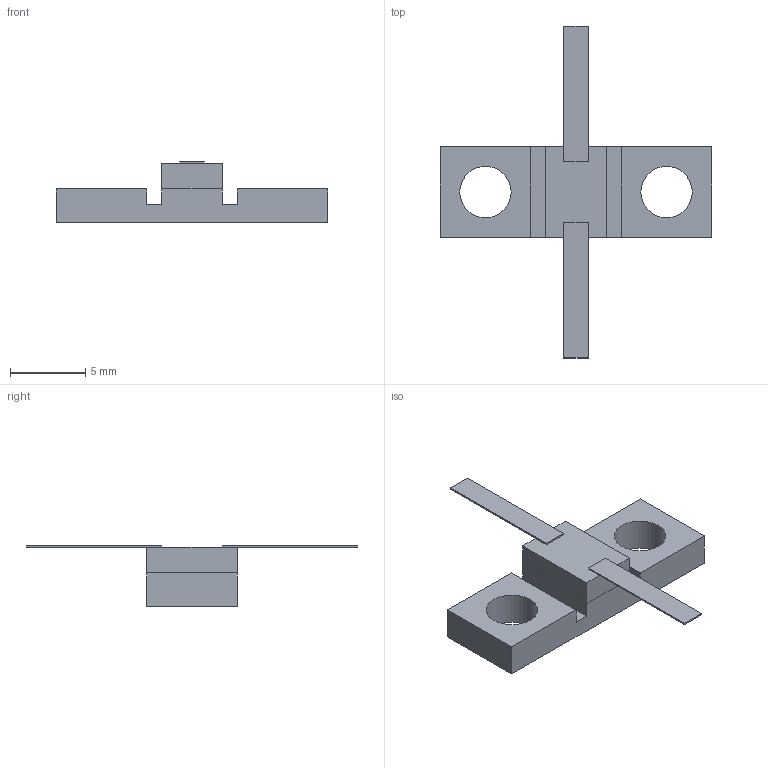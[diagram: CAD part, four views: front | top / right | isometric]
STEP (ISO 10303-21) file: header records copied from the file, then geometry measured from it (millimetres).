
FILE_DESCRIPTION(('STEP AP203'), '1');
FILE_NAME('Ð1-9', '', ('UNSPECIFIED'), ('UNSPECIFIED'), 'ASCON STEP Converter 1.6', 'ASCON Math Kernel', '');
FILE_SCHEMA(('CONFIG_CONTROL_DESIGN'));
Length unit declared in the file: millimetre
Bounding box: 18 x 22 x 4 mm (x, y, z)
Volume: 229.3 mm3; surface area: 489.7 mm2
Topology: 2 solids, 2 shells, 34 faces, 86 edges, 56 vertices
Faces by surface type: plane 32, cylinder 2
Full cylindrical faces by diameter (mm): 3.4 x2
Entity records: 1322 total; most frequent: CARTESIAN_POINT 175, ORIENTED_EDGE 168, DIRECTION 158, EDGE_CURVE 84, LINE 80, VECTOR 80, VERTEX_POINT 56, EDGE_LOOP 40
